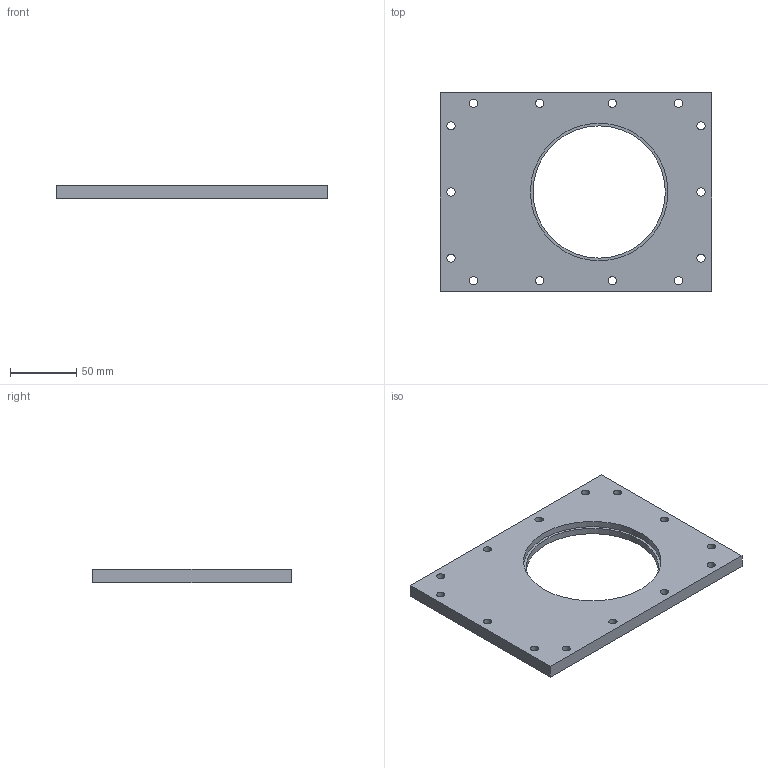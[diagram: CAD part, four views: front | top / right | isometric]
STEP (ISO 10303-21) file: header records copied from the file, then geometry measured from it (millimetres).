
FILE_DESCRIPTION(('FreeCAD Model'),'2;1');
FILE_NAME('Open CASCADE Shape Model','2025-03-26T07:24:33',(''),(''), 'Open CASCADE STEP processor 7.6','FreeCAD','Unknown');
FILE_SCHEMA(('CONFIG_CONTROL_DESIGN','SHAPE_APPEARANCE_LAYER_MIM'));
Length unit declared in the file: millimetre
Products named in the file (1): CryoHeadSupportPlate
Bounding box: 205 x 150 x 10 mm (x, y, z)
Volume: 221529.1 mm3; surface area: 57978 mm2
Topology: 1 solids, 1 shells, 23 faces, 74 edges, 54 vertices
Faces by surface type: cylinder 16, plane 7
Full cylindrical faces by diameter (mm): 6.2 x14, 100 x1, 104 x1
Entity records: 962 total; most frequent: CARTESIAN_POINT 168, DIRECTION 152, ORIENTED_EDGE 148, EDGE_CURVE 74, AXIS2_PLACEMENT_3D 70, FACE_BOUND 54, EDGE_LOOP 54, VERTEX_POINT 54
